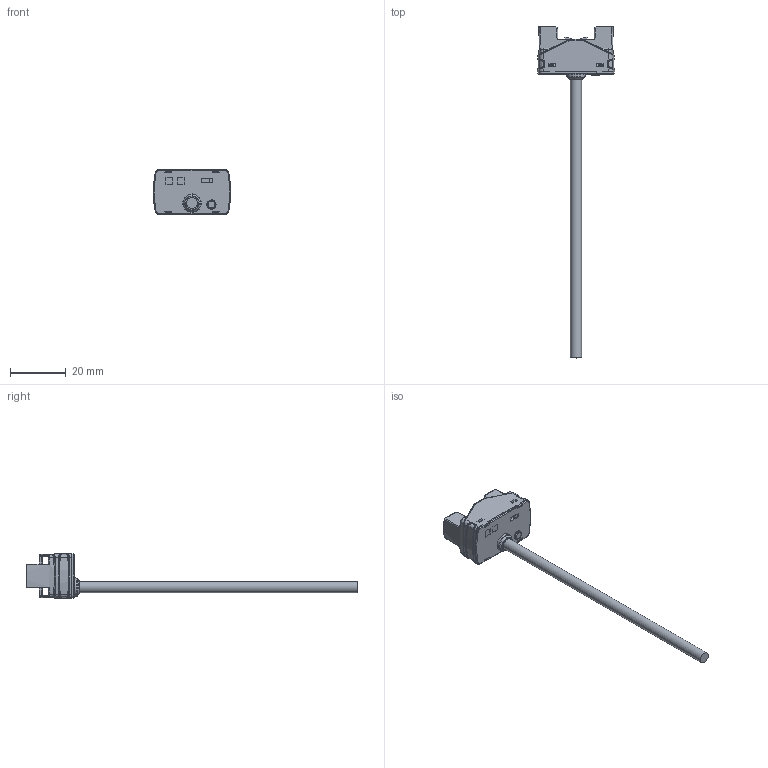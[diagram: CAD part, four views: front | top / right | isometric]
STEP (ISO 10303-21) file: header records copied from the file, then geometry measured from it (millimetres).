
FILE_DESCRIPTION(/* description */ (''),/* implementation_level */ '2;1');
FILE_NAME(/* name */ 'C:\Users\HYF-ID009\Desktop\2021_3D\02)光电传感器_3D\02-12)LT-G系列_3D_空\LT-G_3D333.stp',/* time_stamp */ '2021-05-09T15:18:48+08:00',/* author */ ('HYF-ID009'),/* organization */ (''),/* preprocessor_version */ 'ST-DEVELOPER v16.5',/* originating_system */ 'Autodesk Inventor 2017',/* authorisation */ '');
FILE_SCHEMA (('AUTOMOTIVE_DESIGN { 1 0 10303 214 3 1 1 }'));
Length unit declared in the file: millimetre
Products named in the file (1): LT-G_3D222
Bounding box: 27.76 x 119 x 16.02 mm (x, y, z)
Volume: 5966.5 mm3; surface area: 6966.3 mm2
Topology: 2 solids, 5 shells, 749 faces, 2004 edges, 1243 vertices
Faces by surface type: plane 379, bspline 198, cylinder 116, cone 35, torus 13, sphere 8
Full cylindrical faces by diameter (mm): 3 x1, 4 x1
Entity records: 33719 total; most frequent: CARTESIAN_POINT 15284, ORIENTED_EDGE 3980, DIRECTION 3311, EDGE_CURVE 1989, LINE 1243, VECTOR 1243, VERTEX_POINT 1238, AXIS2_PLACEMENT_3D 1034
